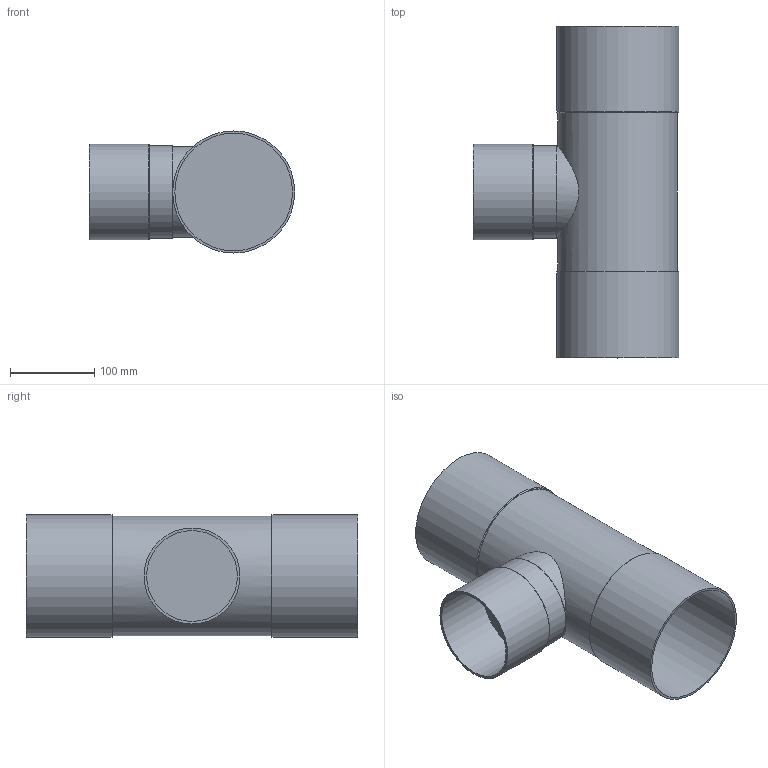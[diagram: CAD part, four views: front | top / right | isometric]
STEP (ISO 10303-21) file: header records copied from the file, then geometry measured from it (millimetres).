
FILE_DESCRIPTION(/* description */ ('Unknown'),/* implementation_level */ '2;1');
FILE_NAME(/* name */ 'F15DN139,7-108',/* time_stamp */ '2020-11-17T12:40:55+01:00',/* author */ ('Unknown'),/* organization */ ('Unknown'),/* preprocessor_version */ 'ST-DEVELOPER v16.7',/* originating_system */ 'DEX',/* authorisation */ $);
FILE_SCHEMA (('AUTOMOTIVE_DESIGN {1 0 10303 214 3 1 1}'));
Length unit declared in the file: millimetre
Products named in the file (1): F15DN139,7-108
Bounding box: 244 x 394 x 145 mm (x, y, z)
Volume: 3797845 mm3; surface area: 361602 mm2
Topology: 1 solids, 1 shells, 22 faces, 39 edges, 27 vertices
Faces by surface type: plane 10, cylinder 9, cone 3
Full cylindrical faces by diameter (mm): 108 x2, 110 x1, 114 x1, 139.7 x2, 142 x1, 145 x2
Entity records: 517 total; most frequent: CARTESIAN_POINT 121, DIRECTION 86, AXIS2_PLACEMENT_3D 43, ORIENTED_EDGE 42, EDGE_LOOP 42, FACE_BOUND 42, ADVANCED_FACE 22, EDGE_CURVE 21
